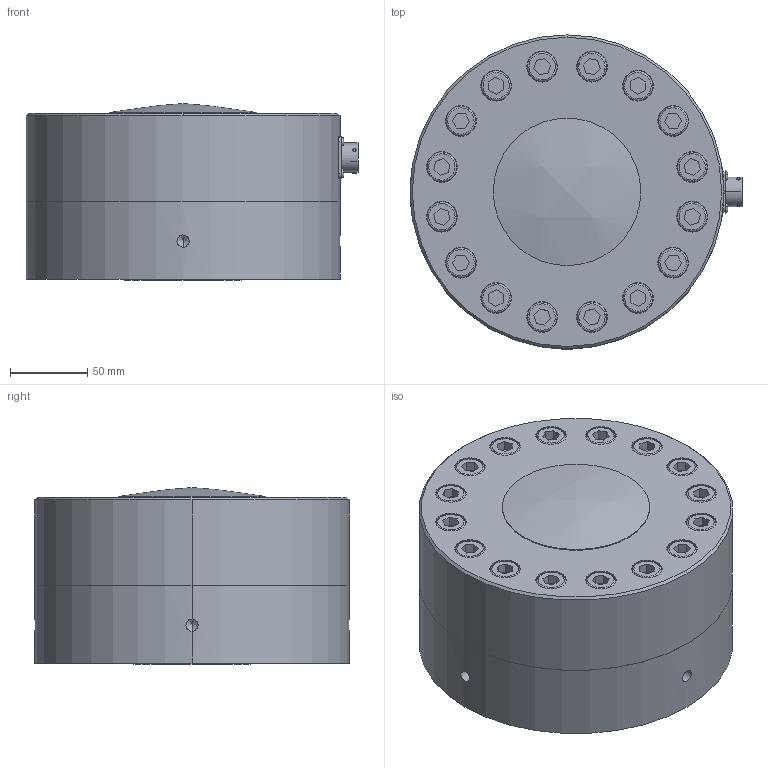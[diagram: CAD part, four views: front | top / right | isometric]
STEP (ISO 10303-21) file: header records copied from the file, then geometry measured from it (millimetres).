
FILE_DESCRIPTION (( 'STEP AP203' ), '1' );
FILE_NAME ('Interface 1633-450KN.STEP', '2012-05-08T17:27:27', ( ' ' ), ( '' ), 'SwSTEP 2.0', 'SolidWorks 2002349', '' );
FILE_SCHEMA (( 'CONFIG_CONTROL_DESIGN' ));
Length unit declared in the file: inch
Products named in the file (1): Interface 1633-450KN
Bounding box: 214.78 x 203.15 x 114.3 mm (x, y, z)
Volume: 3428695.7 mm3; surface area: 169106.3 mm2
Topology: 1 solids, 5 shells, 413 faces, 1009 edges, 666 vertices
Faces by surface type: plane 226, cylinder 134, bspline 41, cone 12
Entity records: 13169 total; most frequent: CARTESIAN_POINT 3450, ORIENTED_EDGE 2002, DIRECTION 1977, EDGE_CURVE 1001, AXIS2_PLACEMENT_3D 711, VERTEX_POINT 666, LINE 555, VECTOR 555
